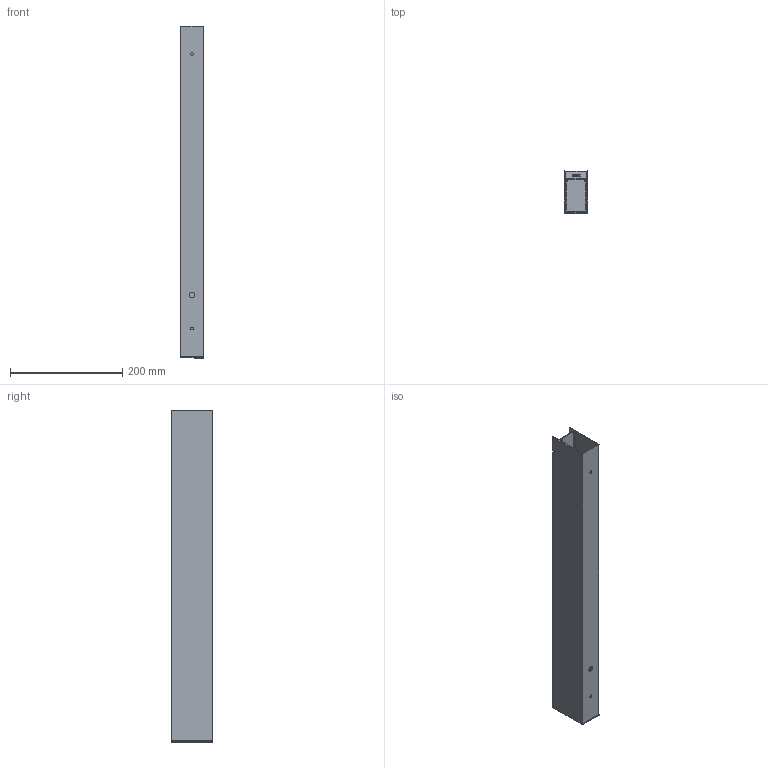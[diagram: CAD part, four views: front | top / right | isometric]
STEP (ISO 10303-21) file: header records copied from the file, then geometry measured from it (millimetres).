
FILE_DESCRIPTION (( 'STEP AP214' ), '1' );
FILE_NAME ('LINE RP-RF 12 INICIAL.STEP', '2017-08-23T09:46:45', ( 'Ofitecnic3' ), ( 'Microsoft' ), 'SwSTEP 2.0', 'SolidWorks 2016', '' );
FILE_SCHEMA (( 'AUTOMOTIVE_DESIGN' ));
Length unit declared in the file: millimetre
Products named in the file (4): Difusor plástico-BIM_LED-590mm; Tapa (LineR)-BIM; Perfil_extrusion (LineR)-BIM_LR2016- 590mm ; LINE RP-RF 12 INICIAL
Assembly tree (3 placements, depth 2):
  LINE RP-RF 12 INICIAL
    Perfil_extrusion (LineR)-BIM_LR2016- 590mm 
    Tapa (LineR)-BIM
    Difusor plástico-BIM_LED-590mm
Bounding box: 42.5 x 74.75 x 592.5 mm (x, y, z)
Volume: 257823.1 mm3; surface area: 290097.8 mm2
Topology: 3 solids, 3 shells, 237 faces, 592 edges, 370 vertices
Faces by surface type: plane 108, cylinder 86, bspline 41, sphere 2
Entity records: 8677 total; most frequent: CARTESIAN_POINT 3301, ORIENTED_EDGE 1180, DIRECTION 967, EDGE_CURVE 590, VERTEX_POINT 370, VECTOR 355, LINE 355, AXIS2_PLACEMENT_3D 306
